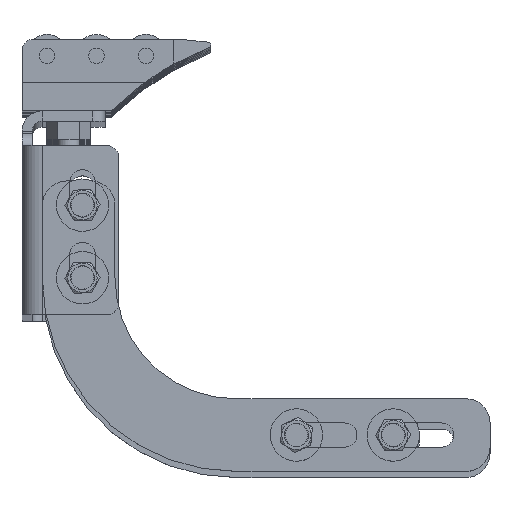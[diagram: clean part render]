
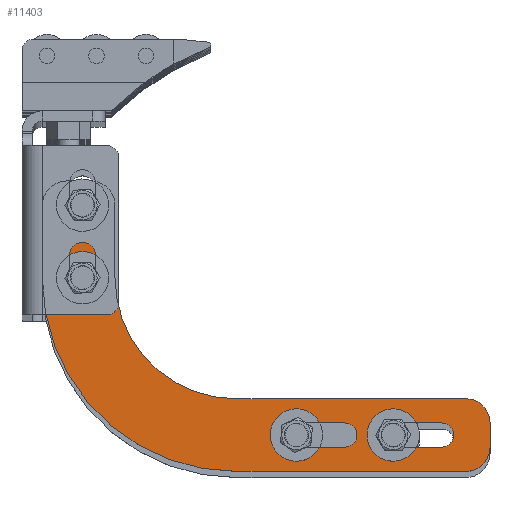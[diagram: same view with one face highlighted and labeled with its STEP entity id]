
A CAD part, top view. The second image highlights one B-rep face of the part: STEP entity #11403.
In plain terms, the highlighted planar face has unit normal (0, 0, 1) as drawn and (0, 0, -1) by its records, which use the part's own axes.
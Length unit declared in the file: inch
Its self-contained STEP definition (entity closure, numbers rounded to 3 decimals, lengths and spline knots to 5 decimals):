
#10839=DIRECTION('',(0.,-1.,0.));
#10840=VECTOR('',#10839,0.75);
#10841=CARTESIAN_POINT('',(0.,2.75,-0.25));
#10842=LINE('',#10841,#10840);
#10843=CARTESIAN_POINT('',(-0.25,2.75,-0.25));
#10844=DIRECTION('',(0.,0.,-1.));
#10845=DIRECTION('',(0.,1.,0.));
#10846=AXIS2_PLACEMENT_3D('',#10843,#10844,#10845);
#10848=DIRECTION('',(1.,0.,0.));
#10849=VECTOR('',#10848,0.25);
#10850=CARTESIAN_POINT('',(-0.5,3.,-0.25));
#10851=LINE('',#10850,#10849);
#10852=CARTESIAN_POINT('',(-0.5,2.75,-0.25));
#10853=DIRECTION('',(0.,0.,-1.));
#10854=DIRECTION('',(-1.,0.,0.));
#10855=AXIS2_PLACEMENT_3D('',#10852,#10853,#10854);
#10857=DIRECTION('',(0.,1.,0.));
#10858=VECTOR('',#10857,0.75);
#10859=CARTESIAN_POINT('',(-0.75,2.,-0.25));
#10860=LINE('',#10859,#10858);
#10861=CARTESIAN_POINT('',(-2.,2.,-0.25));
#10862=DIRECTION('',(0.,0.,1.));
#10863=DIRECTION('',(0.,-1.,0.));
#10864=AXIS2_PLACEMENT_3D('',#10861,#10862,#10863);
#10866=DIRECTION('',(1.,0.,0.));
#10867=VECTOR('',#10866,2.375);
#10868=CARTESIAN_POINT('',(-4.375,0.75,-0.25));
#10869=LINE('',#10868,#10867);
#10870=CARTESIAN_POINT('',(-4.375,0.5,-0.25));
#10871=DIRECTION('',(0.,0.,-1.));
#10872=DIRECTION('',(-1.,0.,0.));
#10873=AXIS2_PLACEMENT_3D('',#10870,#10871,#10872);
#10875=DIRECTION('',(0.,1.,0.));
#10876=VECTOR('',#10875,0.25);
#10877=CARTESIAN_POINT('',(-4.625,0.25,-0.25));
#10878=LINE('',#10877,#10876);
#10879=CARTESIAN_POINT('',(-4.375,0.25,-0.25));
#10880=DIRECTION('',(0.,0.,-1.));
#10881=DIRECTION('',(0.,-1.,0.));
#10882=AXIS2_PLACEMENT_3D('',#10879,#10880,#10881);
#10884=DIRECTION('',(-1.,0.,0.));
#10885=VECTOR('',#10884,2.375);
#10886=CARTESIAN_POINT('',(-2.,0.,-0.25));
#10887=LINE('',#10886,#10885);
#10888=CARTESIAN_POINT('',(-2.,2.,-0.25));
#10889=DIRECTION('',(0.,0.,-1.));
#10890=DIRECTION('',(1.,0.,0.));
#10891=AXIS2_PLACEMENT_3D('',#10888,#10889,#10890);
#10893=CARTESIAN_POINT('',(-0.4145,2.,-0.25));
#10894=DIRECTION('',(0.,0.,1.));
#10895=DIRECTION('',(1.,0.,0.));
#10896=AXIS2_PLACEMENT_3D('',#10893,#10894,#10895);
#10898=CARTESIAN_POINT('',(-0.4145,2.,-0.25));
#10899=DIRECTION('',(0.,0.,1.));
#10900=DIRECTION('',(-1.,0.,0.));
#10901=AXIS2_PLACEMENT_3D('',#10898,#10899,#10900);
#10903=CARTESIAN_POINT('',(-0.4145,2.75,-0.25));
#10904=DIRECTION('',(0.,0.,1.));
#10905=DIRECTION('',(1.,0.,0.));
#10906=AXIS2_PLACEMENT_3D('',#10903,#10904,#10905);
#10908=CARTESIAN_POINT('',(-0.4145,2.75,-0.25));
#10909=DIRECTION('',(0.,0.,1.));
#10910=DIRECTION('',(-1.,0.,0.));
#10911=AXIS2_PLACEMENT_3D('',#10908,#10909,#10910);
#10913=CARTESIAN_POINT('',(-2.625,0.375,-0.25));
#10914=DIRECTION('',(0.,0.,1.));
#10915=DIRECTION('',(1.,0.,0.));
#10916=AXIS2_PLACEMENT_3D('',#10913,#10914,#10915);
#10918=CARTESIAN_POINT('',(-2.625,0.375,-0.25));
#10919=DIRECTION('',(0.,0.,1.));
#10920=DIRECTION('',(0.,-1.,0.));
#10921=AXIS2_PLACEMENT_3D('',#10918,#10919,#10920);
#10923=CARTESIAN_POINT('',(-3.125,0.375,-0.25));
#10924=DIRECTION('',(0.,0.,1.));
#10925=DIRECTION('',(-1.,0.,0.));
#10926=AXIS2_PLACEMENT_3D('',#10923,#10924,#10925);
#10928=CARTESIAN_POINT('',(-3.125,0.375,-0.25));
#10929=DIRECTION('',(0.,0.,1.));
#10930=DIRECTION('',(0.,1.,0.));
#10931=AXIS2_PLACEMENT_3D('',#10928,#10929,#10930);
#10933=CARTESIAN_POINT('',(-3.625,0.375,-0.25));
#10934=DIRECTION('',(0.,0.,1.));
#10935=DIRECTION('',(1.,0.,0.));
#10936=AXIS2_PLACEMENT_3D('',#10933,#10934,#10935);
#10938=CARTESIAN_POINT('',(-3.625,0.375,-0.25));
#10939=DIRECTION('',(0.,0.,1.));
#10940=DIRECTION('',(0.,-1.,0.));
#10941=AXIS2_PLACEMENT_3D('',#10938,#10939,#10940);
#10943=CARTESIAN_POINT('',(-4.125,0.375,-0.25));
#10944=DIRECTION('',(0.,0.,1.));
#10945=DIRECTION('',(-1.,0.,0.));
#10946=AXIS2_PLACEMENT_3D('',#10943,#10944,#10945);
#10948=CARTESIAN_POINT('',(-4.125,0.375,-0.25));
#10949=DIRECTION('',(0.,0.,1.));
#10950=DIRECTION('',(0.,1.,0.));
#10951=AXIS2_PLACEMENT_3D('',#10948,#10949,#10950);
#11155=DIRECTION('',(1.,0.,0.));
#11156=VECTOR('',#11155,0.5);
#11157=CARTESIAN_POINT('',(-3.125,0.5,-0.25));
#11158=LINE('',#11157,#11156);
#11159=DIRECTION('',(-1.,0.,0.));
#11160=VECTOR('',#11159,0.5);
#11161=CARTESIAN_POINT('',(-2.625,0.25,-0.25));
#11162=LINE('',#11161,#11160);
#11171=DIRECTION('',(1.,0.,0.));
#11172=VECTOR('',#11171,0.5);
#11173=CARTESIAN_POINT('',(-4.125,0.5,-0.25));
#11174=LINE('',#11173,#11172);
#11187=DIRECTION('',(-1.,0.,0.));
#11188=VECTOR('',#11187,0.5);
#11189=CARTESIAN_POINT('',(-3.625,0.25,-0.25));
#11190=LINE('',#11189,#11188);
#11192=CARTESIAN_POINT('',(-3.125,0.25,-0.25));
#11194=VERTEX_POINT('',#11192);
#11199=CARTESIAN_POINT('',(-3.125,0.5,-0.25));
#11200=CARTESIAN_POINT('',(-2.625,0.5,-0.25));
#11201=VERTEX_POINT('',#11199);
#11202=VERTEX_POINT('',#11200);
#11203=CARTESIAN_POINT('',(-2.,0.75,-0.25));
#11205=VERTEX_POINT('',#11203);
#11208=CARTESIAN_POINT('',(-4.375,0.75,-0.25));
#11210=VERTEX_POINT('',#11208);
#11219=CARTESIAN_POINT('',(-4.125,0.5,-0.25));
#11220=VERTEX_POINT('',#11219);
#11221=CARTESIAN_POINT('',(-3.625,0.5,-0.25));
#11222=VERTEX_POINT('',#11221);
#11223=CARTESIAN_POINT('',(-4.25,0.375,-0.25));
#11224=VERTEX_POINT('',#11223);
#11225=CARTESIAN_POINT('',(-4.125,0.25,-0.25));
#11226=VERTEX_POINT('',#11225);
#11227=CARTESIAN_POINT('',(-0.31607,2.,-0.25));
#11228=CARTESIAN_POINT('',(-0.51293,2.,-0.25));
#11229=VERTEX_POINT('',#11227);
#11230=VERTEX_POINT('',#11228);
#11231=CARTESIAN_POINT('',(-2.625,0.25,-0.25));
#11232=CARTESIAN_POINT('',(-2.5,0.375,-0.25));
#11233=VERTEX_POINT('',#11231);
#11234=VERTEX_POINT('',#11232);
#11235=CARTESIAN_POINT('',(-0.51293,2.75,-0.25));
#11236=CARTESIAN_POINT('',(-0.31607,2.75,-0.25));
#11237=VERTEX_POINT('',#11235);
#11238=VERTEX_POINT('',#11236);
#11257=CARTESIAN_POINT('',(0.,2.75,-0.25));
#11258=CARTESIAN_POINT('',(0.,2.,-0.25));
#11259=VERTEX_POINT('',#11257);
#11260=VERTEX_POINT('',#11258);
#11261=CARTESIAN_POINT('',(-4.375,0.,-0.25));
#11263=VERTEX_POINT('',#11261);
#11267=CARTESIAN_POINT('',(-0.5,3.,-0.25));
#11268=VERTEX_POINT('',#11267);
#11273=CARTESIAN_POINT('',(-0.25,3.,-0.25));
#11274=VERTEX_POINT('',#11273);
#11275=CARTESIAN_POINT('',(-0.75,2.75,-0.25));
#11276=VERTEX_POINT('',#11275);
#11277=CARTESIAN_POINT('',(-0.75,2.,-0.25));
#11278=VERTEX_POINT('',#11277);
#11281=CARTESIAN_POINT('',(-3.625,0.25,-0.25));
#11282=VERTEX_POINT('',#11281);
#11285=CARTESIAN_POINT('',(-2.,0.,-0.25));
#11286=VERTEX_POINT('',#11285);
#11291=CARTESIAN_POINT('',(-3.25,0.375,-0.25));
#11292=VERTEX_POINT('',#11291);
#11293=CARTESIAN_POINT('',(-4.625,0.5,-0.25));
#11294=VERTEX_POINT('',#11293);
#11297=CARTESIAN_POINT('',(-3.5,0.375,-0.25));
#11298=VERTEX_POINT('',#11297);
#11301=CARTESIAN_POINT('',(-4.625,0.25,-0.25));
#11302=VERTEX_POINT('',#11301);
#11334=CARTESIAN_POINT('',(0.,0.,-0.25));
#11335=DIRECTION('',(0.,0.,1.));
#11336=DIRECTION('',(1.,0.,0.));
#11337=AXIS2_PLACEMENT_3D('',#11334,#11335,#11336);
#11338=PLANE('',#11337);
#11340=ORIENTED_EDGE('',*,*,#11339,.F.);
#11342=ORIENTED_EDGE('',*,*,#11341,.F.);
#11344=ORIENTED_EDGE('',*,*,#11343,.F.);
#11346=ORIENTED_EDGE('',*,*,#11345,.F.);
#11348=ORIENTED_EDGE('',*,*,#11347,.F.);
#11350=ORIENTED_EDGE('',*,*,#11349,.F.);
#11352=ORIENTED_EDGE('',*,*,#11351,.F.);
#11354=ORIENTED_EDGE('',*,*,#11353,.F.);
#11356=ORIENTED_EDGE('',*,*,#11355,.F.);
#11358=ORIENTED_EDGE('',*,*,#11357,.F.);
#11360=ORIENTED_EDGE('',*,*,#11359,.F.);
#11362=ORIENTED_EDGE('',*,*,#11361,.F.);
#11363=EDGE_LOOP('',(#11340,#11342,#11344,#11346,#11348,#11350,#11352,#11354,
#11356,#11358,#11360,#11362));
#11364=FACE_OUTER_BOUND('',#11363,.F.);
#11366=ORIENTED_EDGE('',*,*,#11365,.F.);
#11368=ORIENTED_EDGE('',*,*,#11367,.F.);
#11369=EDGE_LOOP('',(#11366,#11368));
#11370=FACE_BOUND('',#11369,.F.);
#11372=ORIENTED_EDGE('',*,*,#11371,.F.);
#11374=ORIENTED_EDGE('',*,*,#11373,.F.);
#11375=EDGE_LOOP('',(#11372,#11374));
#11376=FACE_BOUND('',#11375,.F.);
#11378=ORIENTED_EDGE('',*,*,#11377,.T.);
#11379=ORIENTED_EDGE('',*,*,#11324,.F.);
#11380=ORIENTED_EDGE('',*,*,#11314,.F.);
#11382=ORIENTED_EDGE('',*,*,#11381,.T.);
#11384=ORIENTED_EDGE('',*,*,#11383,.F.);
#11386=ORIENTED_EDGE('',*,*,#11385,.F.);
#11387=EDGE_LOOP('',(#11378,#11379,#11380,#11382,#11384,#11386));
#11388=FACE_BOUND('',#11387,.F.);
#11390=ORIENTED_EDGE('',*,*,#11389,.T.);
#11392=ORIENTED_EDGE('',*,*,#11391,.F.);
#11394=ORIENTED_EDGE('',*,*,#11393,.F.);
#11396=ORIENTED_EDGE('',*,*,#11395,.T.);
#11398=ORIENTED_EDGE('',*,*,#11397,.F.);
#11400=ORIENTED_EDGE('',*,*,#11399,.F.);
#11401=EDGE_LOOP('',(#11390,#11392,#11394,#11396,#11398,#11400));
#11402=FACE_BOUND('',#11401,.F.);
#10847=CIRCLE('',#10846,0.25);
#10856=CIRCLE('',#10855,0.25);
#10865=CIRCLE('',#10864,1.25);
#10874=CIRCLE('',#10873,0.25);
#10883=CIRCLE('',#10882,0.25);
#10892=CIRCLE('',#10891,2.);
#10897=CIRCLE('',#10896,0.09843);
#10902=CIRCLE('',#10901,0.09843);
#10907=CIRCLE('',#10906,0.09843);
#10912=CIRCLE('',#10911,0.09843);
#10917=CIRCLE('',#10916,0.125);
#10922=CIRCLE('',#10921,0.125);
#10927=CIRCLE('',#10926,0.125);
#10932=CIRCLE('',#10931,0.125);
#10937=CIRCLE('',#10936,0.125);
#10942=CIRCLE('',#10941,0.125);
#10947=CIRCLE('',#10946,0.125);
#10952=CIRCLE('',#10951,0.125);
#11314=EDGE_CURVE('',#11233,#11234,#10922,.T.);
#11324=EDGE_CURVE('',#11234,#11202,#10917,.T.);
#11339=EDGE_CURVE('',#11259,#11260,#10842,.T.);
#11341=EDGE_CURVE('',#11274,#11259,#10847,.T.);
#11343=EDGE_CURVE('',#11268,#11274,#10851,.T.);
#11345=EDGE_CURVE('',#11276,#11268,#10856,.T.);
#11347=EDGE_CURVE('',#11278,#11276,#10860,.T.);
#11349=EDGE_CURVE('',#11205,#11278,#10865,.T.);
#11351=EDGE_CURVE('',#11210,#11205,#10869,.T.);
#11353=EDGE_CURVE('',#11294,#11210,#10874,.T.);
#11355=EDGE_CURVE('',#11302,#11294,#10878,.T.);
#11357=EDGE_CURVE('',#11263,#11302,#10883,.T.);
#11359=EDGE_CURVE('',#11286,#11263,#10887,.T.);
#11361=EDGE_CURVE('',#11260,#11286,#10892,.T.);
#11365=EDGE_CURVE('',#11229,#11230,#10897,.T.);
#11367=EDGE_CURVE('',#11230,#11229,#10902,.T.);
#11371=EDGE_CURVE('',#11238,#11237,#10907,.T.);
#11373=EDGE_CURVE('',#11237,#11238,#10912,.T.);
#11377=EDGE_CURVE('',#11201,#11202,#11158,.T.);
#11381=EDGE_CURVE('',#11233,#11194,#11162,.T.);
#11383=EDGE_CURVE('',#11292,#11194,#10927,.T.);
#11385=EDGE_CURVE('',#11201,#11292,#10932,.T.);
#11389=EDGE_CURVE('',#11220,#11222,#11174,.T.);
#11391=EDGE_CURVE('',#11298,#11222,#10937,.T.);
#11393=EDGE_CURVE('',#11282,#11298,#10942,.T.);
#11395=EDGE_CURVE('',#11282,#11226,#11190,.T.);
#11397=EDGE_CURVE('',#11224,#11226,#10947,.T.);
#11399=EDGE_CURVE('',#11220,#11224,#10952,.T.);
#11403=ADVANCED_FACE('',(#11364,#11370,#11376,#11388,#11402),#11338,.F.);
